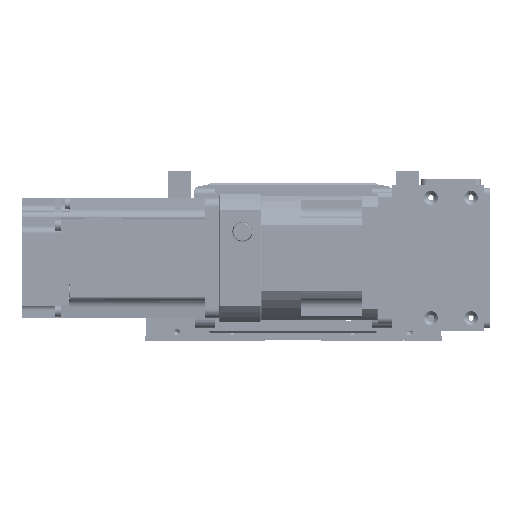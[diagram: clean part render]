
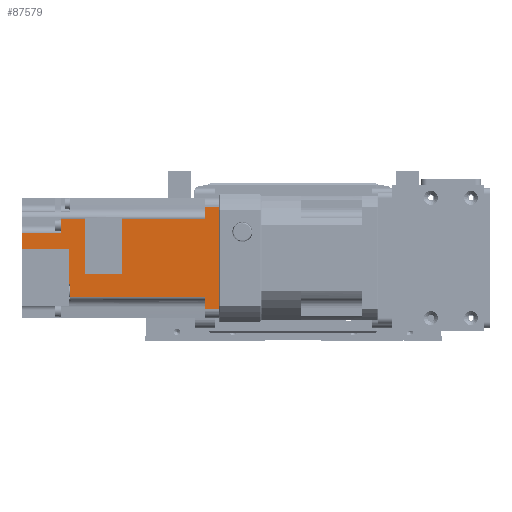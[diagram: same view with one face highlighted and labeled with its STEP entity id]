
A CAD part, front view. The second image highlights one B-rep face of the part: STEP entity #87579.
In plain terms, the highlighted planar face has unit normal (0, -1, 0).
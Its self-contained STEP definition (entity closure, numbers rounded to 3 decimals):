
#9214=FACE_OUTER_BOUND('',#14299,.T.);
#14299=EDGE_LOOP('',(#70858,#70859,#70860,#70861,#70862,#70863,#70864,#70865,
#70866,#70867,#70868,#70869,#70870,#70871,#70872,#70873,#70874,#70875,#70876,
#70877));
#21055=LINE('',#140799,#30494);
#21086=LINE('',#140919,#30525);
#21089=LINE('',#140930,#30528);
#21129=LINE('',#141045,#30568);
#21190=LINE('',#141255,#30629);
#21191=LINE('',#141260,#30630);
#21192=LINE('',#141262,#30631);
#21193=LINE('',#141263,#30632);
#21194=LINE('',#141265,#30633);
#21195=LINE('',#141267,#30634);
#21196=LINE('',#141269,#30635);
#21197=LINE('',#141271,#30636);
#21198=LINE('',#141273,#30637);
#21199=LINE('',#141275,#30638);
#21200=LINE('',#141277,#30639);
#21201=LINE('',#141279,#30640);
#21202=LINE('',#141280,#30641);
#21203=LINE('',#141282,#30642);
#21204=LINE('',#141284,#30643);
#21205=LINE('',#141285,#30644);
#30494=VECTOR('',#111612,51.);
#30525=VECTOR('',#111715,3.41);
#30528=VECTOR('',#111724,2.444);
#30568=VECTOR('',#111826,7.8);
#30629=VECTOR('',#112061,5.941);
#30630=VECTOR('',#112068,67.3);
#30631=VECTOR('',#112071,0.905);
#30632=VECTOR('',#112072,7.);
#30633=VECTOR('',#112073,7.);
#30634=VECTOR('',#112074,5.941);
#30635=VECTOR('',#112075,41.6);
#30636=VECTOR('',#112076,27.559);
#30637=VECTOR('',#112077,18.35);
#30638=VECTOR('',#112078,27.559);
#30639=VECTOR('',#112079,11.85);
#30640=VECTOR('',#112080,7.059);
#30641=VECTOR('',#112081,19.5);
#30642=VECTOR('',#112082,23.5);
#30643=VECTOR('',#112083,17.5);
#30644=VECTOR('',#112084,0.5);
#40113=VERTEX_POINT('',#140796);
#40114=VERTEX_POINT('',#140798);
#40164=VERTEX_POINT('',#140913);
#40166=VERTEX_POINT('',#140916);
#40167=VERTEX_POINT('',#140918);
#40172=VERTEX_POINT('',#140928);
#40215=VERTEX_POINT('',#141042);
#40216=VERTEX_POINT('',#141044);
#40277=VERTEX_POINT('',#141252);
#40278=VERTEX_POINT('',#141254);
#40280=VERTEX_POINT('',#141264);
#40281=VERTEX_POINT('',#141266);
#40282=VERTEX_POINT('',#141268);
#40283=VERTEX_POINT('',#141270);
#40284=VERTEX_POINT('',#141272);
#40285=VERTEX_POINT('',#141274);
#40286=VERTEX_POINT('',#141276);
#40287=VERTEX_POINT('',#141278);
#40288=VERTEX_POINT('',#141281);
#40289=VERTEX_POINT('',#141283);
#50864=EDGE_CURVE('',#40113,#40114,#21055,.T.);
#50923=EDGE_CURVE('',#40166,#40167,#21086,.T.);
#50929=EDGE_CURVE('',#40172,#40164,#21089,.T.);
#50987=EDGE_CURVE('',#40215,#40216,#21129,.T.);
#51091=EDGE_CURVE('',#40278,#40277,#21190,.T.);
#51094=EDGE_CURVE('',#40278,#40172,#21191,.T.);
#51095=EDGE_CURVE('',#40164,#40166,#21192,.T.);
#51096=EDGE_CURVE('',#40277,#40114,#21193,.T.);
#51097=EDGE_CURVE('',#40113,#40280,#21194,.T.);
#51098=EDGE_CURVE('',#40281,#40280,#21195,.T.);
#51099=EDGE_CURVE('',#40281,#40282,#21196,.T.);
#51100=EDGE_CURVE('',#40282,#40283,#21197,.T.);
#51101=EDGE_CURVE('',#40283,#40284,#21198,.T.);
#51102=EDGE_CURVE('',#40284,#40285,#21199,.T.);
#51103=EDGE_CURVE('',#40286,#40285,#21200,.T.);
#51104=EDGE_CURVE('',#40287,#40286,#21201,.T.);
#51105=EDGE_CURVE('',#40216,#40287,#21202,.T.);
#51106=EDGE_CURVE('',#40215,#40288,#21203,.T.);
#51107=EDGE_CURVE('',#40289,#40288,#21204,.T.);
#51108=EDGE_CURVE('',#40167,#40289,#21205,.T.);
#70858=ORIENTED_EDGE('',*,*,#51095,.F.);
#70859=ORIENTED_EDGE('',*,*,#50929,.F.);
#70860=ORIENTED_EDGE('',*,*,#51094,.F.);
#70861=ORIENTED_EDGE('',*,*,#51091,.T.);
#70862=ORIENTED_EDGE('',*,*,#51096,.T.);
#70863=ORIENTED_EDGE('',*,*,#50864,.F.);
#70864=ORIENTED_EDGE('',*,*,#51097,.T.);
#70865=ORIENTED_EDGE('',*,*,#51098,.F.);
#70866=ORIENTED_EDGE('',*,*,#51099,.T.);
#70867=ORIENTED_EDGE('',*,*,#51100,.T.);
#70868=ORIENTED_EDGE('',*,*,#51101,.T.);
#70869=ORIENTED_EDGE('',*,*,#51102,.T.);
#70870=ORIENTED_EDGE('',*,*,#51103,.F.);
#70871=ORIENTED_EDGE('',*,*,#51104,.F.);
#70872=ORIENTED_EDGE('',*,*,#51105,.F.);
#70873=ORIENTED_EDGE('',*,*,#50987,.F.);
#70874=ORIENTED_EDGE('',*,*,#51106,.T.);
#70875=ORIENTED_EDGE('',*,*,#51107,.F.);
#70876=ORIENTED_EDGE('',*,*,#51108,.F.);
#70877=ORIENTED_EDGE('',*,*,#50923,.F.);
#83273=PLANE('',#95154);
#87579=ADVANCED_FACE('',(#9214),#83273,.F.);
#95154=AXIS2_PLACEMENT_3D('',#141261,#112069,#112070);
#111612=DIRECTION('',(1.,0.,0.));
#111715=DIRECTION('',(-1.,0.,0.));
#111724=DIRECTION('',(-1.,0.,0.));
#111826=DIRECTION('',(-1.,0.,0.));
#112061=DIRECTION('',(1.,0.,0.));
#112068=DIRECTION('',(0.,0.,-1.));
#112069=DIRECTION('center_axis',(0.,1.,0.));
#112070=DIRECTION('ref_axis',(-1.,0.,0.));
#112071=DIRECTION('',(-1.,0.,0.));
#112072=DIRECTION('',(0.,0.,1.));
#112073=DIRECTION('',(0.,0.,-1.));
#112074=DIRECTION('',(-1.,0.,0.));
#112075=DIRECTION('',(0.,0.,-1.));
#112076=DIRECTION('',(1.,0.,0.));
#112077=DIRECTION('',(0.,0.,-1.));
#112078=DIRECTION('',(-1.,0.,0.));
#112079=DIRECTION('',(0.,0.,1.));
#112080=DIRECTION('',(-1.,0.,0.));
#112081=DIRECTION('',(0.,0.,1.));
#112082=DIRECTION('',(0.,0.,1.));
#112083=DIRECTION('',(-1.,0.,0.));
#112084=DIRECTION('',(0.,0.,-1.));
#140796=CARTESIAN_POINT('',(-25.5,-30.,0.));
#140798=CARTESIAN_POINT('',(25.5,-30.,0.));
#140799=CARTESIAN_POINT('',(-25.5,-30.,0.));
#140913=CARTESIAN_POINT('',(17.115,-30.,-74.3));
#140916=CARTESIAN_POINT('',(16.21,-30.,-74.3));
#140918=CARTESIAN_POINT('',(12.8,-30.,-74.3));
#140919=CARTESIAN_POINT('',(16.21,-30.,-74.3));
#140928=CARTESIAN_POINT('',(19.559,-30.,-74.3));
#140930=CARTESIAN_POINT('',(19.559,-30.,-74.3));
#141042=CARTESIAN_POINT('',(-4.7,-30.,-98.3));
#141044=CARTESIAN_POINT('',(-12.5,-30.,-98.3));
#141045=CARTESIAN_POINT('',(-4.7,-30.,-98.3));
#141252=CARTESIAN_POINT('',(25.5,-30.,-7.));
#141254=CARTESIAN_POINT('',(19.559,-30.,-7.));
#141255=CARTESIAN_POINT('',(19.559,-30.,-7.));
#141260=CARTESIAN_POINT('',(19.559,-30.,-7.));
#141261=CARTESIAN_POINT('Origin',(0.,-30.,-3.9));
#141262=CARTESIAN_POINT('',(17.115,-30.,-74.3));
#141263=CARTESIAN_POINT('',(25.5,-30.,-7.));
#141264=CARTESIAN_POINT('',(-25.5,-30.,-7.));
#141265=CARTESIAN_POINT('',(-25.5,-30.,0.));
#141266=CARTESIAN_POINT('',(-19.559,-30.,-7.));
#141267=CARTESIAN_POINT('',(-19.559,-30.,-7.));
#141268=CARTESIAN_POINT('',(-19.559,-30.,-48.6));
#141269=CARTESIAN_POINT('',(-19.559,-30.,-7.));
#141270=CARTESIAN_POINT('',(8.,-30.,-48.6));
#141271=CARTESIAN_POINT('',(-19.559,-30.,-48.6));
#141272=CARTESIAN_POINT('',(8.,-30.,-66.95));
#141273=CARTESIAN_POINT('',(8.,-30.,-48.6));
#141274=CARTESIAN_POINT('',(-19.559,-30.,-66.95));
#141275=CARTESIAN_POINT('',(8.,-30.,-66.95));
#141276=CARTESIAN_POINT('',(-19.559,-30.,-78.8));
#141277=CARTESIAN_POINT('',(-19.559,-30.,-78.8));
#141278=CARTESIAN_POINT('',(-12.5,-30.,-78.8));
#141279=CARTESIAN_POINT('',(-12.5,-30.,-78.8));
#141280=CARTESIAN_POINT('',(-12.5,-30.,-98.3));
#141281=CARTESIAN_POINT('',(-4.7,-30.,-74.8));
#141282=CARTESIAN_POINT('',(-4.7,-30.,-98.3));
#141283=CARTESIAN_POINT('',(12.8,-30.,-74.8));
#141284=CARTESIAN_POINT('',(12.8,-30.,-74.8));
#141285=CARTESIAN_POINT('',(12.8,-30.,-74.3));
